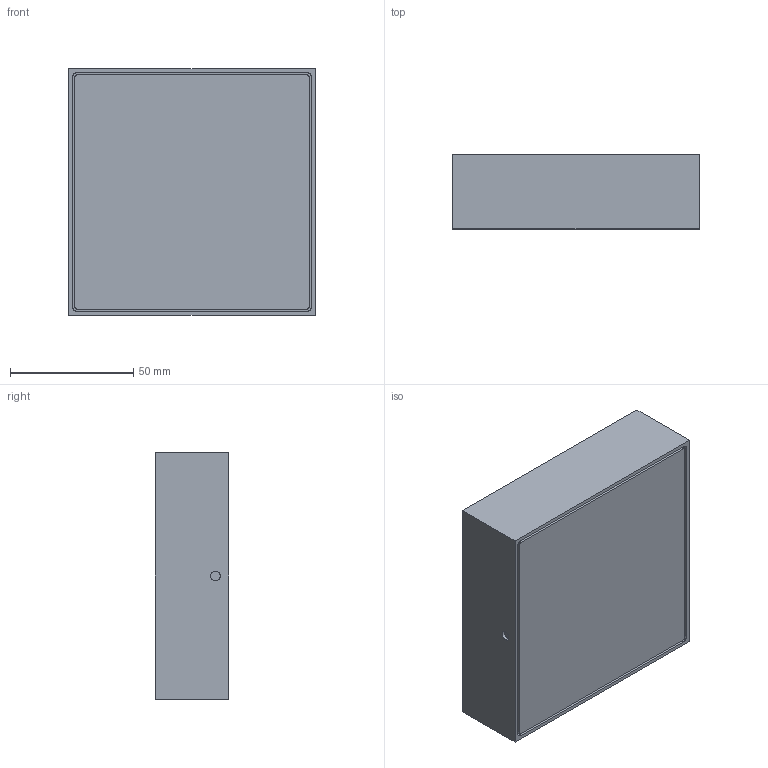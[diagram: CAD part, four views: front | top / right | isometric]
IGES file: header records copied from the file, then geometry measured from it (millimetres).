
Start section: SolidWorks IGES file using analytic representation for surfaces
Global section: file name: C:\Users\danielet\Desktop\3D CARLOS\NASHIRA-A2062-3D\NASHIRA-A2062-3D.IGS; native system: SolidWorks 2018; preprocessor: SolidWorks 2018; author: danielet; date: 220110.132245; units: millimetre
Bounding box: 100 x 30 x 100 mm (x, y, z)
Surface area: 45809.7 mm2 (no closed solid volume)
Topology: 0 solids, 0 shells, 40 faces, 430 edges, 430 vertices
Faces by surface type: bspline 26, revolution 14
